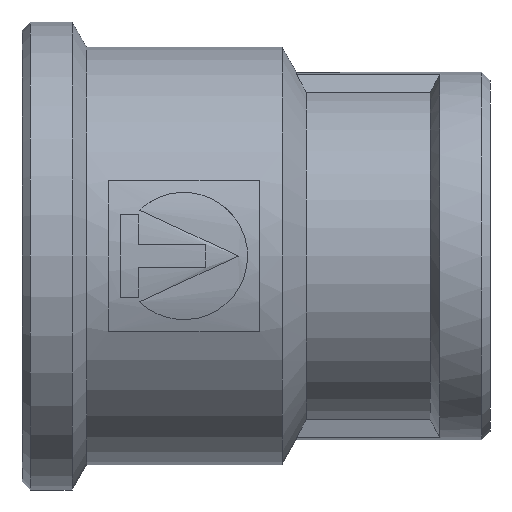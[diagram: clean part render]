
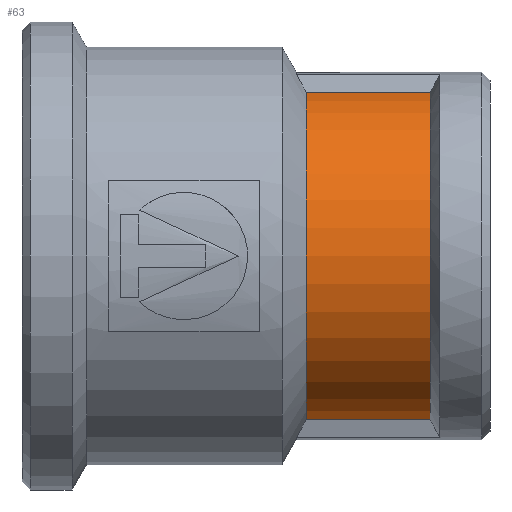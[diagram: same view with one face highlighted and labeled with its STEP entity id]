
A CAD part, left-side view. The second image highlights one B-rep face of the part: STEP entity #63.
In plain terms, the highlighted cylindrical face has radius 10 mm (diameter 20 mm), a partial arc.
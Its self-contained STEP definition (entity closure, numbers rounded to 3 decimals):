
#63=ADVANCED_FACE('',(#478),#480,.T.);
#478=FACE_BOUND('',#479,.T.);
#479=EDGE_LOOP('',(#2258,#2259,#2260,#2261,#2262));
#480=CYLINDRICAL_SURFACE('',#481,10.);
#481=AXIS2_PLACEMENT_3D('',#482,#483,#484);
#482=CARTESIAN_POINT('',(0.,-28.,0.));
#483=DIRECTION('',(0.,1.,0.));
#484=DIRECTION('',(-1.,0.,0.));
#2258=ORIENTED_EDGE('',*,*,#3856,.F.);
#2259=ORIENTED_EDGE('',*,*,#3855,.F.);
#2260=ORIENTED_EDGE('',*,*,#3852,.F.);
#2261=ORIENTED_EDGE('',*,*,#3849,.T.);
#2262=ORIENTED_EDGE('',*,*,#3848,.T.);
#3848=EDGE_CURVE('',#4571,#4569,#4572,.F.);
#3849=EDGE_CURVE('',#4573,#4571,#4574,.F.);
#3852=EDGE_CURVE('',#4573,#4578,#4579,.F.);
#3855=EDGE_CURVE('',#4578,#4581,#4583,.T.);
#3856=EDGE_CURVE('',#4581,#4569,#4584,.T.);
#4569=VERTEX_POINT('',#5827);
#4571=VERTEX_POINT('',#5835);
#4572=CIRCLE('',#5836,10.);
#4573=VERTEX_POINT('',#5840);
#4574=CIRCLE('',#5841,10.);
#4578=VERTEX_POINT('',#5857);
#4579=LINE('',#5858,#5859);
#4581=VERTEX_POINT('',#5867);
#4583=CIRCLE('',#5874,10.);
#4584=LINE('',#5878,#5879);
#5827=CARTESIAN_POINT('',(-2.037,-17.,-9.79));
#5835=CARTESIAN_POINT('',(-10.,-17.,0.));
#5836=AXIS2_PLACEMENT_3D('',#5837,#5838,#5839);
#5837=CARTESIAN_POINT('',(0.,-17.,0.));
#5838=DIRECTION('',(0.,1.,0.));
#5839=DIRECTION('',(-0.204,0.,-0.979));
#5840=CARTESIAN_POINT('',(-2.037,-17.,9.79));
#5841=AXIS2_PLACEMENT_3D('',#5842,#5843,#5844);
#5842=CARTESIAN_POINT('',(0.,-17.,0.));
#5843=DIRECTION('',(0.,1.,0.));
#5844=DIRECTION('',(-1.,0.,0.));
#5857=CARTESIAN_POINT('',(-2.037,-24.423,9.79));
#5858=CARTESIAN_POINT('',(-2.037,-24.423,9.79));
#5859=VECTOR('',#5860,1.);
#5860=DIRECTION('',(0.,1.,0.));
#5867=CARTESIAN_POINT('',(-2.037,-24.423,-9.79));
#5874=AXIS2_PLACEMENT_3D('',#5875,#5876,#5877);
#5875=CARTESIAN_POINT('',(0.,-24.423,0.));
#5876=DIRECTION('',(0.,-1.,0.));
#5877=DIRECTION('',(-0.204,0.,0.979));
#5878=CARTESIAN_POINT('',(-2.037,-24.423,-9.79));
#5879=VECTOR('',#5880,1.);
#5880=DIRECTION('',(0.,1.,0.));
